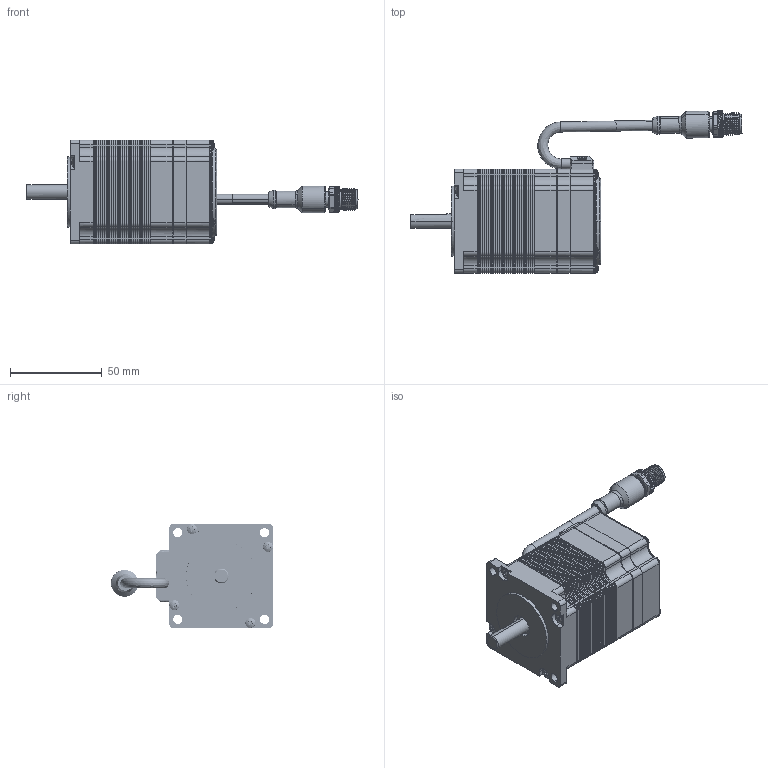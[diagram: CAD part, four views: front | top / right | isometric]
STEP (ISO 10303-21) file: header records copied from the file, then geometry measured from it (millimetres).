
FILE_DESCRIPTION (( 'STEP AP214' ), '1' );
FILE_NAME ('AB-SM-23-NB.STEP', '2024-09-26T18:06:43', ( '' ), ( '' ), 'SwSTEP 2.0', 'SolidWorks 2023', '' );
FILE_SCHEMA (( 'AUTOMOTIVE_DESIGN' ));
Products named in the file (1): AB-SM-23-NB
Bounding box: 180.5 x 88.14 x 56.4 mm (x, y, z)
Surface area: 57729.2 mm2 (no closed solid volume)
Topology: 0 solids, 40 shells, 3546 faces, 9561 edges, 6171 vertices
Faces by surface type: bspline 3546
Entity records: 150080 total; most frequent: CARTESIAN_POINT 94933, ORIENTED_EDGE 18762, EDGE_CURVE 9543, B_SPLINE_CURVE_WITH_KNOTS 7758, VERTEX_POINT 6171, EDGE_LOOP 3692, FACE_OUTER_BOUND 3546, ADVANCED_FACE 3546
